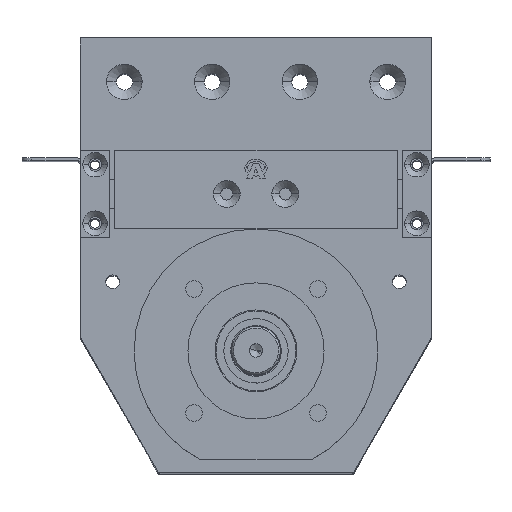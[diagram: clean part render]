
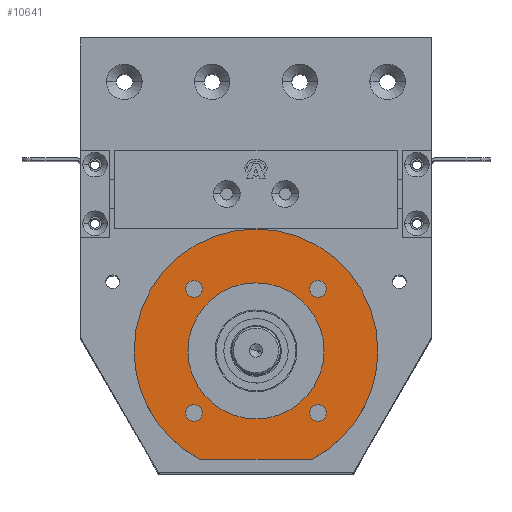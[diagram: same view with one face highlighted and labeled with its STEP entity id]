
A CAD part, top view. The second image highlights one B-rep face of the part: STEP entity #10641.
In plain terms, the highlighted planar face has unit normal (0, 0, 1) as drawn and (-1, 0, 0) by its records, which use the part's own axes.
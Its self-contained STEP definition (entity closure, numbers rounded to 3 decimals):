
#126 = VERTEX_POINT ( 'NONE', #317 ) ;
#175 = DIRECTION ( 'NONE',  ( 0., 0., -1. ) ) ;
#317 = CARTESIAN_POINT ( 'NONE',  ( 2., 31.82, -36.07 ) ) ;
#449 = EDGE_LOOP ( 'NONE', ( #7975, #18763 ) ) ;
#476 = EDGE_CURVE ( 'NONE', #15230, #10462, #7359, .T. ) ;
#558 = CARTESIAN_POINT ( 'NONE',  ( 2., -31.82, -36.07 ) ) ;
#806 = EDGE_CURVE ( 'NONE', #10880, #2614, #2857, .T. ) ;
#877 = VECTOR ( 'NONE', #18086, 1000. ) ;
#887 = EDGE_LOOP ( 'NONE', ( #3001, #11080 ) ) ;
#942 = CARTESIAN_POINT ( 'NONE',  ( 2., 0., 34.9 ) ) ;
#1131 = AXIS2_PLACEMENT_3D ( 'NONE', #4228, #5812, #7434 ) ;
#1144 = VERTEX_POINT ( 'NONE', #558 ) ;
#1161 = ORIENTED_EDGE ( 'NONE', *, *, #3981, .T. ) ;
#1385 = CARTESIAN_POINT ( 'NONE',  ( 2., 0., -62.5 ) ) ;
#2135 = EDGE_LOOP ( 'NONE', ( #18250, #15660 ) ) ;
#2156 = EDGE_LOOP ( 'NONE', ( #8800, #8066 ) ) ;
#2297 = DIRECTION ( 'NONE',  ( 0., 0., -1. ) ) ;
#2414 = AXIS2_PLACEMENT_3D ( 'NONE', #18953, #3055, #5976 ) ;
#2474 = AXIS2_PLACEMENT_3D ( 'NONE', #5450, #18134, #19963 ) ;
#2486 = CIRCLE ( 'NONE', #7625, 62.5 ) ;
#2492 = VERTEX_POINT ( 'NONE', #12553 ) ;
#2614 = VERTEX_POINT ( 'NONE', #9612 ) ;
#2617 = DIRECTION ( 'NONE',  ( 0., 0., 1. ) ) ;
#2846 = AXIS2_PLACEMENT_3D ( 'NONE', #18095, #15139, #2297 ) ;
#2857 = CIRCLE ( 'NONE', #11776, 34.9 ) ;
#2862 = AXIS2_PLACEMENT_3D ( 'NONE', #4332, #9073, #13841 ) ;
#3001 = ORIENTED_EDGE ( 'NONE', *, *, #5195, .T. ) ;
#3055 = DIRECTION ( 'NONE',  ( 1., 0., 0. ) ) ;
#3101 = EDGE_CURVE ( 'NONE', #2492, #3894, #15271, .T. ) ;
#3543 = CARTESIAN_POINT ( 'NONE',  ( 2., -55.5, 28.74 ) ) ;
#3629 = AXIS2_PLACEMENT_3D ( 'NONE', #4682, #4491, #15662 ) ;
#3761 = PLANE ( 'NONE',  #2846 ) ;
#3770 = FACE_BOUND ( 'NONE', #17159, .T. ) ;
#3894 = VERTEX_POINT ( 'NONE', #5840 ) ;
#3981 = EDGE_CURVE ( 'NONE', #15230, #14120, #2486, .T. ) ;
#4045 = DIRECTION ( 'NONE',  ( 0., 0., 1. ) ) ;
#4228 = CARTESIAN_POINT ( 'NONE',  ( 2., 31.82, 31.82 ) ) ;
#4280 = DIRECTION ( 'NONE',  ( -1., 0., 0. ) ) ;
#4332 = CARTESIAN_POINT ( 'NONE',  ( 2., 0., 0. ) ) ;
#4491 = DIRECTION ( 'NONE',  ( 1., 0., 0. ) ) ;
#4643 = CIRCLE ( 'NONE', #6988, 4.25 ) ;
#4682 = CARTESIAN_POINT ( 'NONE',  ( 2., -31.82, -31.82 ) ) ;
#4749 = EDGE_CURVE ( 'NONE', #1144, #12081, #12666, .T. ) ;
#4921 = DIRECTION ( 'NONE',  ( 1., 0., 0. ) ) ;
#5059 = EDGE_CURVE ( 'NONE', #2614, #10880, #15174, .T. ) ;
#5141 = EDGE_CURVE ( 'NONE', #12815, #126, #11117, .T. ) ;
#5195 = EDGE_CURVE ( 'NONE', #10146, #8232, #16928, .T. ) ;
#5236 = CARTESIAN_POINT ( 'NONE',  ( 2., 0., 62.5 ) ) ;
#5249 = EDGE_CURVE ( 'NONE', #12081, #1144, #11589, .T. ) ;
#5450 = CARTESIAN_POINT ( 'NONE',  ( 2., 31.82, -31.82 ) ) ;
#5491 = FACE_BOUND ( 'NONE', #887, .T. ) ;
#5812 = DIRECTION ( 'NONE',  ( 1., 0., 0. ) ) ;
#5840 = CARTESIAN_POINT ( 'NONE',  ( 2., 31.82, 27.57 ) ) ;
#5964 = EDGE_CURVE ( 'NONE', #8232, #10146, #4643, .T. ) ;
#5976 = DIRECTION ( 'NONE',  ( 0., 0., -1. ) ) ;
#6074 = CARTESIAN_POINT ( 'NONE',  ( 2., -31.82, 31.82 ) ) ;
#6343 = DIRECTION ( 'NONE',  ( 1., 0., 0. ) ) ;
#6522 = CARTESIAN_POINT ( 'NONE',  ( 2., -55.5, -28.74 ) ) ;
#6922 = CIRCLE ( 'NONE', #2474, 4.25 ) ;
#6988 = AXIS2_PLACEMENT_3D ( 'NONE', #17675, #4921, #175 ) ;
#6995 = FACE_BOUND ( 'NONE', #2135, .T. ) ;
#6997 = CARTESIAN_POINT ( 'NONE',  ( 2., 0., 0. ) ) ;
#7343 = CARTESIAN_POINT ( 'NONE',  ( 2., 31.82, -31.82 ) ) ;
#7359 = LINE ( 'NONE', #9862, #877 ) ;
#7434 = DIRECTION ( 'NONE',  ( 0., 0., -1. ) ) ;
#7512 = EDGE_CURVE ( 'NONE', #16734, #10462, #12060, .T. ) ;
#7532 = CARTESIAN_POINT ( 'NONE',  ( 2., -31.82, 27.57 ) ) ;
#7625 = AXIS2_PLACEMENT_3D ( 'NONE', #20089, #16998, #4045 ) ;
#7975 = ORIENTED_EDGE ( 'NONE', *, *, #806, .F. ) ;
#8066 = ORIENTED_EDGE ( 'NONE', *, *, #5249, .T. ) ;
#8232 = VERTEX_POINT ( 'NONE', #9046 ) ;
#8574 = AXIS2_PLACEMENT_3D ( 'NONE', #6074, #6343, #9432 ) ;
#8657 = CARTESIAN_POINT ( 'NONE',  ( 2., -31.82, -27.57 ) ) ;
#8800 = ORIENTED_EDGE ( 'NONE', *, *, #4749, .T. ) ;
#9046 = CARTESIAN_POINT ( 'NONE',  ( 2., -31.82, 36.07 ) ) ;
#9073 = DIRECTION ( 'NONE',  ( -1., 0., 0. ) ) ;
#9432 = DIRECTION ( 'NONE',  ( 0., 0., -1. ) ) ;
#9460 = CARTESIAN_POINT ( 'NONE',  ( 2., -31.82, -31.82 ) ) ;
#9535 = AXIS2_PLACEMENT_3D ( 'NONE', #6997, #15111, #10289 ) ;
#9612 = CARTESIAN_POINT ( 'NONE',  ( 2., 0., -34.9 ) ) ;
#9862 = CARTESIAN_POINT ( 'NONE',  ( 2., -55.5, 28.74 ) ) ;
#10146 = VERTEX_POINT ( 'NONE', #7532 ) ;
#10289 = DIRECTION ( 'NONE',  ( 0., 0., 1. ) ) ;
#10462 = VERTEX_POINT ( 'NONE', #6522 ) ;
#10563 = DIRECTION ( 'NONE',  ( 1., 0., 0. ) ) ;
#10641 = ADVANCED_FACE ( 'NONE', ( #11225, #5491, #3770, #6995, #20305, #13504 ), #3761, .F. ) ;
#10829 = CARTESIAN_POINT ( 'NONE',  ( 2., 0., 0. ) ) ;
#10880 = VERTEX_POINT ( 'NONE', #942 ) ;
#11053 = DIRECTION ( 'NONE',  ( 0., 0., -1. ) ) ;
#11080 = ORIENTED_EDGE ( 'NONE', *, *, #5964, .T. ) ;
#11117 = CIRCLE ( 'NONE', #16081, 4.25 ) ;
#11225 = FACE_BOUND ( 'NONE', #2156, .T. ) ;
#11589 = CIRCLE ( 'NONE', #3629, 4.25 ) ;
#11761 = EDGE_CURVE ( 'NONE', #14120, #16734, #18254, .T. ) ;
#11776 = AXIS2_PLACEMENT_3D ( 'NONE', #10829, #12152, #2617 ) ;
#12060 = CIRCLE ( 'NONE', #2862, 62.5 ) ;
#12081 = VERTEX_POINT ( 'NONE', #8657 ) ;
#12152 = DIRECTION ( 'NONE',  ( -1., 0., 0. ) ) ;
#12161 = EDGE_CURVE ( 'NONE', #126, #12815, #6922, .T. ) ;
#12553 = CARTESIAN_POINT ( 'NONE',  ( 2., 31.82, 36.07 ) ) ;
#12666 = CIRCLE ( 'NONE', #18945, 4.25 ) ;
#12815 = VERTEX_POINT ( 'NONE', #14875 ) ;
#13504 = FACE_OUTER_BOUND ( 'NONE', #14703, .T. ) ;
#13774 = EDGE_CURVE ( 'NONE', #3894, #2492, #17643, .T. ) ;
#13841 = DIRECTION ( 'NONE',  ( 0., 0., 1. ) ) ;
#14120 = VERTEX_POINT ( 'NONE', #5236 ) ;
#14703 = EDGE_LOOP ( 'NONE', ( #1161, #20296, #20115, #16124 ) ) ;
#14875 = CARTESIAN_POINT ( 'NONE',  ( 2., 31.82, -27.57 ) ) ;
#15111 = DIRECTION ( 'NONE',  ( -1., 0., 0. ) ) ;
#15139 = DIRECTION ( 'NONE',  ( 1., 0., 0. ) ) ;
#15174 = CIRCLE ( 'NONE', #20411, 34.9 ) ;
#15230 = VERTEX_POINT ( 'NONE', #3543 ) ;
#15271 = CIRCLE ( 'NONE', #2414, 4.25 ) ;
#15660 = ORIENTED_EDGE ( 'NONE', *, *, #5141, .T. ) ;
#15662 = DIRECTION ( 'NONE',  ( 0., 0., -1. ) ) ;
#16081 = AXIS2_PLACEMENT_3D ( 'NONE', #7343, #10563, #20539 ) ;
#16124 = ORIENTED_EDGE ( 'NONE', *, *, #476, .F. ) ;
#16232 = ORIENTED_EDGE ( 'NONE', *, *, #3101, .T. ) ;
#16734 = VERTEX_POINT ( 'NONE', #1385 ) ;
#16928 = CIRCLE ( 'NONE', #8574, 4.25 ) ;
#16998 = DIRECTION ( 'NONE',  ( -1., 0., 0. ) ) ;
#17145 = DIRECTION ( 'NONE',  ( 0., 0., 1. ) ) ;
#17159 = EDGE_LOOP ( 'NONE', ( #17975, #16232 ) ) ;
#17224 = CARTESIAN_POINT ( 'NONE',  ( 2., 0., 0. ) ) ;
#17643 = CIRCLE ( 'NONE', #1131, 4.25 ) ;
#17675 = CARTESIAN_POINT ( 'NONE',  ( 2., -31.82, 31.82 ) ) ;
#17975 = ORIENTED_EDGE ( 'NONE', *, *, #13774, .T. ) ;
#18086 = DIRECTION ( 'NONE',  ( 0., 0., -1. ) ) ;
#18095 = CARTESIAN_POINT ( 'NONE',  ( 2., 62.5, 0. ) ) ;
#18134 = DIRECTION ( 'NONE',  ( 1., 0., 0. ) ) ;
#18250 = ORIENTED_EDGE ( 'NONE', *, *, #12161, .T. ) ;
#18254 = CIRCLE ( 'NONE', #9535, 62.5 ) ;
#18763 = ORIENTED_EDGE ( 'NONE', *, *, #5059, .F. ) ;
#18945 = AXIS2_PLACEMENT_3D ( 'NONE', #9460, #20696, #11053 ) ;
#18953 = CARTESIAN_POINT ( 'NONE',  ( 2., 31.82, 31.82 ) ) ;
#19963 = DIRECTION ( 'NONE',  ( 0., 0., -1. ) ) ;
#20089 = CARTESIAN_POINT ( 'NONE',  ( 2., 0., 0. ) ) ;
#20115 = ORIENTED_EDGE ( 'NONE', *, *, #7512, .T. ) ;
#20296 = ORIENTED_EDGE ( 'NONE', *, *, #11761, .T. ) ;
#20305 = FACE_BOUND ( 'NONE', #449, .T. ) ;
#20411 = AXIS2_PLACEMENT_3D ( 'NONE', #17224, #4280, #17145 ) ;
#20539 = DIRECTION ( 'NONE',  ( 0., 0., -1. ) ) ;
#20696 = DIRECTION ( 'NONE',  ( 1., 0., 0. ) ) ;
